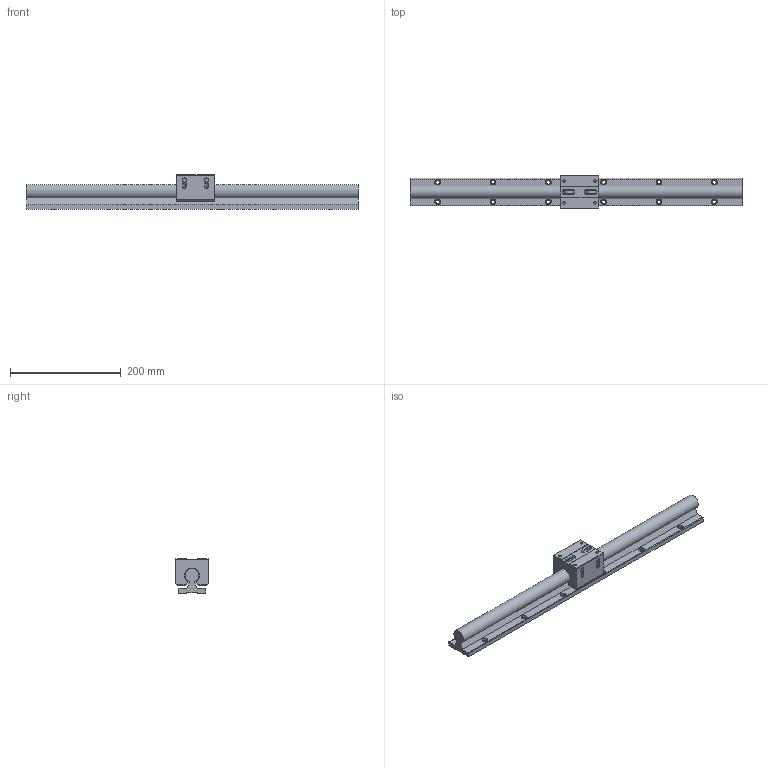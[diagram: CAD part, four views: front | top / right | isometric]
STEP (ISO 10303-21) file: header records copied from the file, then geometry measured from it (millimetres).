
FILE_DESCRIPTION((''),'2;1');
FILE_NAME('D:\製品 (図面)\カタログ用3D\リニアガイド関連\STEP形式\SLGB\SLGB25.stp','2010-06-02T16:56:30',('Tsuchiya'),(''),'Autodesk Inventor 10','Autodesk Inventor 10','');
FILE_SCHEMA(('AUTOMOTIVE_DESIGN { 1 0 10303 214 1 1 1 1 }'));
Length unit declared in the file: millimetre
Products named in the file (3): SLGB25; SLGB251; SLGB252
Assembly tree (2 placements, depth 2):
  SLGB25
    SLGB251
    SLGB252
Bounding box: 600 x 60 x 62 mm (x, y, z)
Volume: 785734.7 mm3; surface area: 151174.2 mm2
Topology: 2 solids, 2 shells, 237 faces, 549 edges, 356 vertices
Faces by surface type: bspline 108, plane 76, cylinder 30, cone 20, torus 3
Full cylindrical faces by diameter (mm): 4.917 x2, 5 x3, 5.5 x3, 6.5 x3, 8 x4, 16 x3
Entity records: 7312 total; most frequent: CARTESIAN_POINT 2668, ORIENTED_EDGE 858, DIRECTION 831, EDGE_CURVE 429, EDGE_LOOP 403, VERTEX_POINT 330, AXIS2_PLACEMENT_3D 318, FACE_OUTER_BOUND 237
